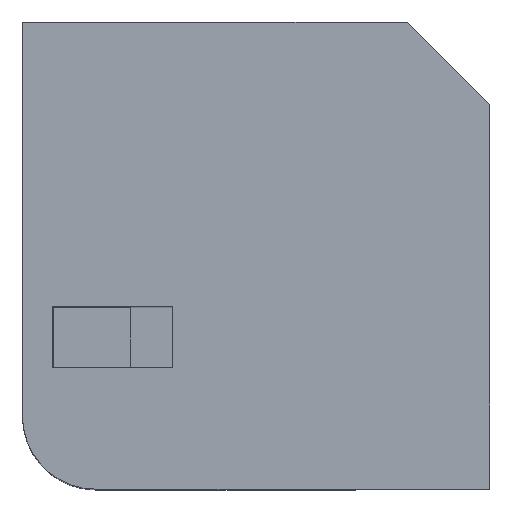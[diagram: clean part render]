
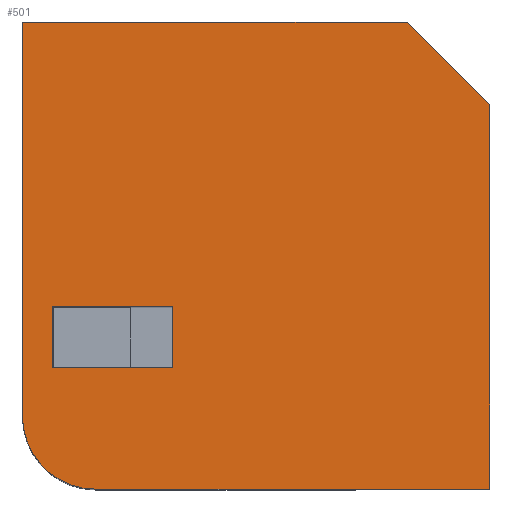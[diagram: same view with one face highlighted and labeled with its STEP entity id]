
A CAD part, top view. The second image highlights one B-rep face of the part: STEP entity #501.
In plain terms, the highlighted planar face has unit normal (0, 0, 1).
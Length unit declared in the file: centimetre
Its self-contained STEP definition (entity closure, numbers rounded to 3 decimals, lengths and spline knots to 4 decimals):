
#8 = EDGE_CURVE ( 'NONE', #510, #210, #800, .T. ) ;
#12 = CARTESIAN_POINT ( 'NONE',  ( 1000., 1000., 1000. ) ) ;
#18 = DIRECTION ( 'NONE',  ( 0., 1., 0. ) ) ;
#21 = EDGE_CURVE ( 'NONE', #161, #670, #204, .T. ) ;
#40 = ORIENTED_EDGE ( 'NONE', *, *, #858, .F. ) ;
#74 = DIRECTION ( 'NONE',  ( 0., 0., 1. ) ) ;
#76 = CARTESIAN_POINT ( 'NONE',  ( 911.8665, 911.8665, 1000. ) ) ;
#81 = VERTEX_POINT ( 'NONE', #360 ) ;
#104 = VERTEX_POINT ( 'NONE', #692 ) ;
#126 = EDGE_CURVE ( 'NONE', #210, #104, #260, .T. ) ;
#131 = VECTOR ( 'NONE', #460, 100. ) ;
#161 = VERTEX_POINT ( 'NONE', #897 ) ;
#197 = DIRECTION ( 'NONE',  ( 0., 0., 1. ) ) ;
#204 = LINE ( 'NONE', #598, #654 ) ;
#210 = VERTEX_POINT ( 'NONE', #285 ) ;
#213 = DIRECTION ( 'NONE',  ( 1., 0., 0. ) ) ;
#259 = LINE ( 'NONE', #578, #971 ) ;
#260 = LINE ( 'NONE', #650, #937 ) ;
#273 = ORIENTED_EDGE ( 'NONE', *, *, #21, .T. ) ;
#275 = CARTESIAN_POINT ( 'NONE',  ( 0., 156.9474, 1000. ) ) ;
#285 = CARTESIAN_POINT ( 'NONE',  ( 823.7331, 1000., 1000. ) ) ;
#288 = VERTEX_POINT ( 'NONE', #275 ) ;
#303 = VERTEX_POINT ( 'NONE', #910 ) ;
#309 = CARTESIAN_POINT ( 'NONE',  ( 0., 0., 1000. ) ) ;
#314 = CARTESIAN_POINT ( 'NONE',  ( 1000., 823.7331, 1000. ) ) ;
#315 = EDGE_CURVE ( 'NONE', #288, #161, #738, .T. ) ;
#338 = ORIENTED_EDGE ( 'NONE', *, *, #927, .T. ) ;
#350 = LINE ( 'NONE', #673, #938 ) ;
#360 = CARTESIAN_POINT ( 'NONE',  ( 63.9757, 389.9994, 1000. ) ) ;
#371 = ORIENTED_EDGE ( 'NONE', *, *, #1028, .T. ) ;
#376 = VERTEX_POINT ( 'NONE', #615 ) ;
#392 = DIRECTION ( 'NONE',  ( -0.707, 0.707, 0. ) ) ;
#400 = VECTOR ( 'NONE', #18, 100. ) ;
#414 = AXIS2_PLACEMENT_3D ( 'NONE', #309, #74, #715 ) ;
#446 = CARTESIAN_POINT ( 'NONE',  ( 0., 1000., 1000. ) ) ;
#460 = DIRECTION ( 'NONE',  ( 0., -1., 0. ) ) ;
#479 = VERTEX_POINT ( 'NONE', #639 ) ;
#491 = DIRECTION ( 'NONE',  ( -1., 0., 0. ) ) ;
#499 = ORIENTED_EDGE ( 'NONE', *, *, #8, .T. ) ;
#501 = ADVANCED_FACE ( 'NONE', ( #695, #1029 ), #1012, .T. ) ;
#510 = VERTEX_POINT ( 'NONE', #314 ) ;
#531 = DIRECTION ( 'NONE',  ( 1., 0., 0. ) ) ;
#556 = EDGE_CURVE ( 'NONE', #376, #81, #259, .T. ) ;
#572 = EDGE_LOOP ( 'NONE', ( #371, #499, #908, #338, #638, #273 ) ) ;
#578 = CARTESIAN_POINT ( 'NONE',  ( 63.9757, 389.9994, 1000. ) ) ;
#598 = CARTESIAN_POINT ( 'NONE',  ( 0., 0., 1000. ) ) ;
#614 = LINE ( 'NONE', #1027, #623 ) ;
#615 = CARTESIAN_POINT ( 'NONE',  ( 321.5206, 389.9994, 1000. ) ) ;
#623 = VECTOR ( 'NONE', #531, 100. ) ;
#638 = ORIENTED_EDGE ( 'NONE', *, *, #315, .T. ) ;
#639 = CARTESIAN_POINT ( 'NONE',  ( 321.5206, 259.9768, 1000. ) ) ;
#640 = VECTOR ( 'NONE', #746, 100. ) ;
#650 = CARTESIAN_POINT ( 'NONE',  ( 0., 1000., 1000. ) ) ;
#654 = VECTOR ( 'NONE', #213, 100. ) ;
#670 = VERTEX_POINT ( 'NONE', #893 ) ;
#673 = CARTESIAN_POINT ( 'NONE',  ( 321.5206, 259.9768, 1000. ) ) ;
#689 = LINE ( 'NONE', #1007, #640 ) ;
#692 = CARTESIAN_POINT ( 'NONE',  ( 0., 1000., 1000. ) ) ;
#695 = FACE_BOUND ( 'NONE', #871, .T. ) ;
#710 = LINE ( 'NONE', #446, #131 ) ;
#715 = DIRECTION ( 'NONE',  ( 1., 0., 0. ) ) ;
#729 = DIRECTION ( 'NONE',  ( -1., 0., 0. ) ) ;
#738 = CIRCLE ( 'NONE', #921, 156.9474 ) ;
#746 = DIRECTION ( 'NONE',  ( 0., -1., 0. ) ) ;
#753 = CARTESIAN_POINT ( 'NONE',  ( 156.9474, 156.9474, 1000. ) ) ;
#763 = EDGE_CURVE ( 'NONE', #479, #376, #350, .T. ) ;
#800 = LINE ( 'NONE', #76, #836 ) ;
#805 = LINE ( 'NONE', #12, #400 ) ;
#835 = DIRECTION ( 'NONE',  ( 1., 0., 0. ) ) ;
#836 = VECTOR ( 'NONE', #392, 100. ) ;
#858 = EDGE_CURVE ( 'NONE', #81, #303, #689, .T. ) ;
#871 = EDGE_LOOP ( 'NONE', ( #40, #958, #883, #1010 ) ) ;
#883 = ORIENTED_EDGE ( 'NONE', *, *, #763, .F. ) ;
#893 = CARTESIAN_POINT ( 'NONE',  ( 1000., 0., 1000. ) ) ;
#897 = CARTESIAN_POINT ( 'NONE',  ( 156.9474, 0., 1000. ) ) ;
#908 = ORIENTED_EDGE ( 'NONE', *, *, #126, .T. ) ;
#910 = CARTESIAN_POINT ( 'NONE',  ( 63.9757, 259.9768, 1000. ) ) ;
#921 = AXIS2_PLACEMENT_3D ( 'NONE', #753, #197, #835 ) ;
#927 = EDGE_CURVE ( 'NONE', #104, #288, #710, .T. ) ;
#937 = VECTOR ( 'NONE', #491, 100. ) ;
#938 = VECTOR ( 'NONE', #992, 100. ) ;
#958 = ORIENTED_EDGE ( 'NONE', *, *, #556, .F. ) ;
#961 = EDGE_CURVE ( 'NONE', #303, #479, #614, .T. ) ;
#971 = VECTOR ( 'NONE', #729, 100. ) ;
#992 = DIRECTION ( 'NONE',  ( 0., 1., 0. ) ) ;
#1007 = CARTESIAN_POINT ( 'NONE',  ( 63.9757, 259.9768, 1000. ) ) ;
#1010 = ORIENTED_EDGE ( 'NONE', *, *, #961, .F. ) ;
#1012 = PLANE ( 'NONE',  #414 ) ;
#1027 = CARTESIAN_POINT ( 'NONE',  ( 63.9757, 259.9768, 1000. ) ) ;
#1028 = EDGE_CURVE ( 'NONE', #670, #510, #805, .T. ) ;
#1029 = FACE_OUTER_BOUND ( 'NONE', #572, .T. ) ;
